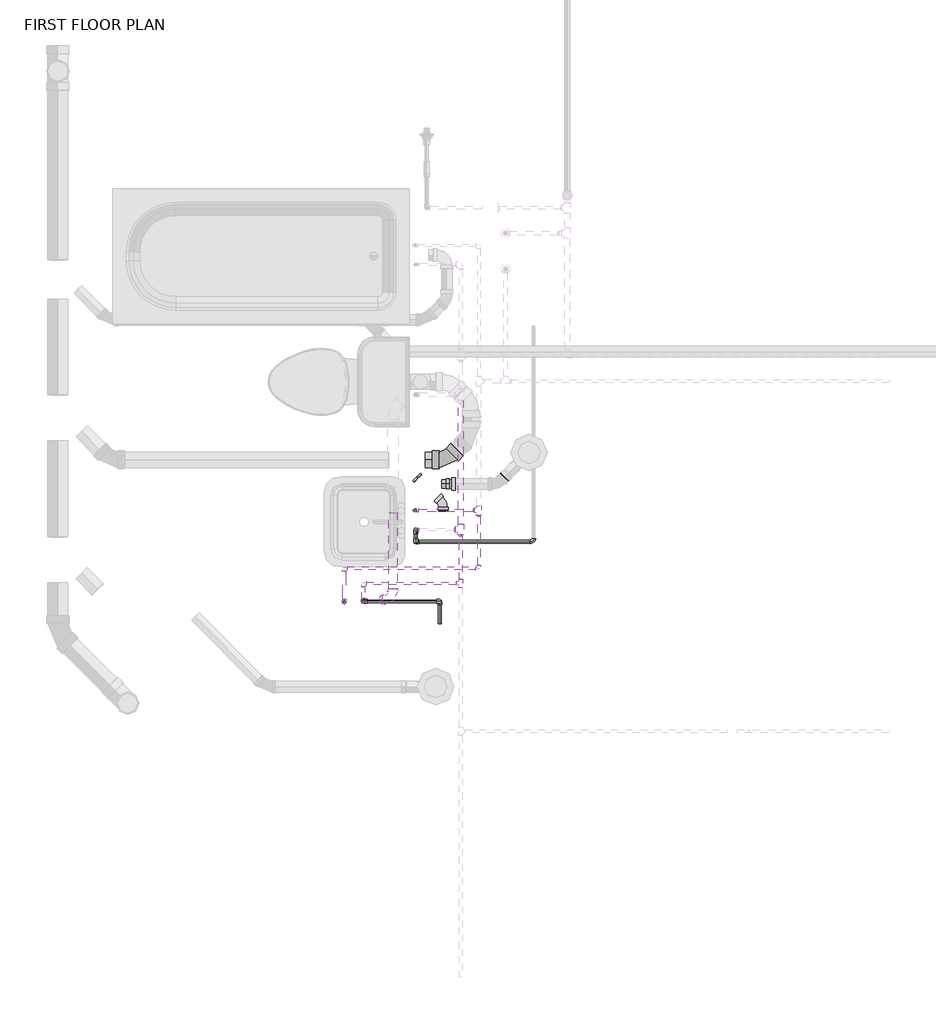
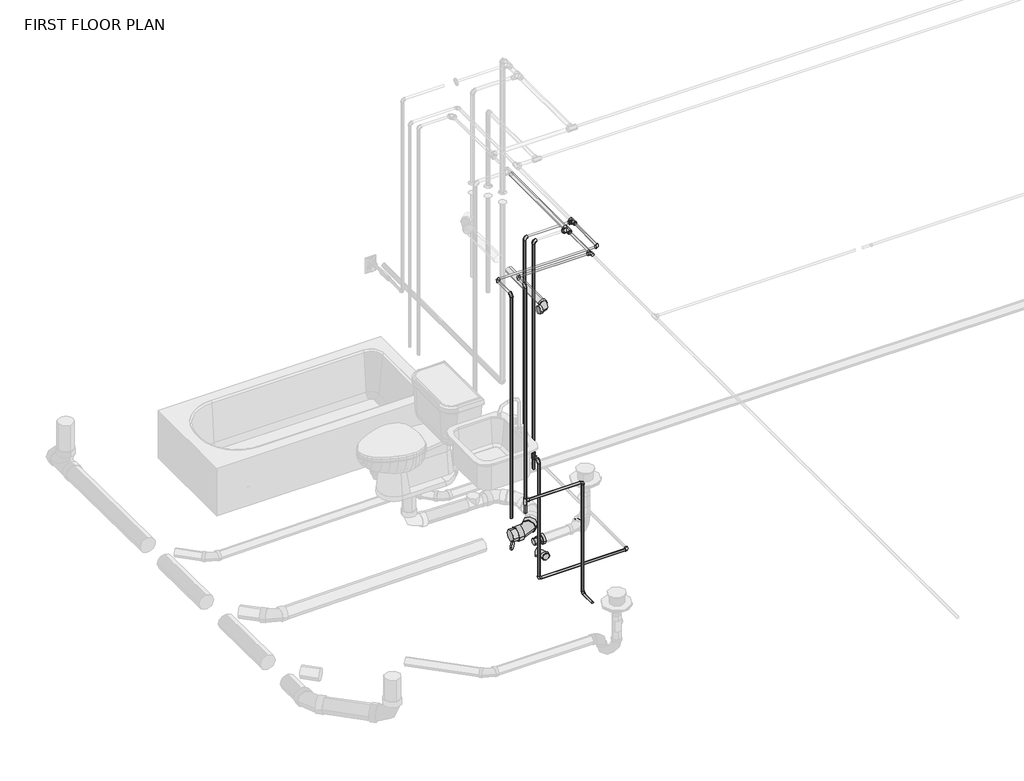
# One storey, part 2 of 5: 27 pipe segments, 25 pipe fittings.
"""IFC4 building model written with IfcOpenShell, lengths in millimetres."""

from ifc_helpers import new_model, si_unit, point, frame, frame_2d, origin, place, context, project, spatial, circle_curve, trimmed, segment, composite_curve, outline, extrude, transform, mapped, element, save
from components import bend_pvc_sch_40_dwv_standard_b1bc43c7, bend_pvc_sch_40_dwv_standard_727fa454, bend_pvc_sch_40_dwv_standard_18acc2f6, pipe_elbow_copper_k_aad62f2d, pipe_elbow_copper_k_fb99da9a, pipe_tee_copper_k_feafe2f1, pipe_tee_copper_k_ee363fbf, pipe_tee_copper_k_1a6ca384, pipe_transition_copper_k_b63fd5dd, pipe_transition_copper_k_859ff352, reducer_pvc_sch_40_dwv_standard_b23fa098

model = new_model("IFC4")

# Units and contexts
model_context = context("Model", 3, world=origin())
ifc_project = project(units=[si_unit("LENGTHUNIT", "METRE", prefix="MILLI")], contexts=[model_context])

# Site, building, storey
site = spatial("IfcSite", under=ifc_project)
building = spatial("IfcBuilding", under=site)
storey = spatial("IfcBuildingStorey", under=building, Name="FIRST FLOOR PLAN", Elevation=0.0)

# Pipe fittings
placement = place(None, origin())
bend_pvc_sch_40_dwv_standard_shape = bend_pvc_sch_40_dwv_standard_b1bc43c7(model_context)
element("IfcPipeFitting", 1, ObjectType="Bend - PVC - Sch 40 - DWV : Standard", at=placement, inside=storey, context=model_context, shape_type="MappedRepresentation", body=[
    mapped(bend_pvc_sch_40_dwv_standard_shape, transform((-7069.3890941, 3977.8910856, -306.1205118), x_axis=(0.999945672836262, 0.0, 0.010423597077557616), y_axis=(-4.489395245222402e-05, 0.9999907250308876, 0.004306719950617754), z_axis=(-0.010423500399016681, -0.004306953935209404, 0.9999363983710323))),
])
bend_pvc_sch_40_dwv_standard_2_shape = bend_pvc_sch_40_dwv_standard_727fa454(model_context)
element("IfcPipeFitting", 2, ObjectType="Bend - PVC - Sch 40 - DWV : Standard", at=placement, inside=storey, context=model_context, shape_type="MappedRepresentation", body=[
    mapped(bend_pvc_sch_40_dwv_standard_2_shape, transform((-7090.6282635, 3734.9328307, -334.0704086), x_axis=(0.0, 0.9999865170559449, -0.005192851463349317), y_axis=(-0.9999863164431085, -2.716557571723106e-05, -0.005231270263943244), z_axis=(-0.0052313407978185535, 0.00519278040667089, 0.9999728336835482))),
])
bend_pvc_sch_40_dwv_standard_3_shape = bend_pvc_sch_40_dwv_standard_18acc2f6(model_context)
element("IfcPipeFitting", 3, ObjectType="Bend - PVC - Sch 40 - DWV : Standard", at=placement, inside=storey, context=model_context, shape_type="MappedRepresentation", body=[
    mapped(bend_pvc_sch_40_dwv_standard_3_shape, transform((-7374.3748732, 3186.6227338, 2055.9460368), x_axis=(0.9999921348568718, 6.212274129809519e-05, -0.003965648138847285), y_axis=(-6.1988674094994e-05, 0.9999999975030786, 3.393003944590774e-05), z_axis=(0.003965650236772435, -3.368394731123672e-05, 0.9999921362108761))),
])
pipe_elbow_copper_k_shape = pipe_elbow_copper_k_aad62f2d(model_context)
element("IfcPipeFitting", 4, ObjectType="Pipe Elbow : Copper- K", at=placement, inside=storey, context=model_context, shape_type="MappedRepresentation", body=[
    mapped(pipe_elbow_copper_k_shape, transform((-7245.3887487, 3583.7331459, 2298.2390728), x_axis=(-1.0, 0.0, 0.0), y_axis=(0.0, 0.0, -1.0), z_axis=(0.0, -1.0, 0.0))),
])
element("IfcPipeFitting", 5, ObjectType="Pipe Elbow : Copper- K", at=placement, inside=storey, context=model_context, shape_type="MappedRepresentation", body=[
    mapped(pipe_elbow_copper_k_shape, transform((-7650.1181278, 3172.2551405, 2263.2789062), x_axis=(0.0, -1.0, 0.0), y_axis=(0.0, 0.0, -1.0), z_axis=(1.0, 0.0, 0.0))),
])
element("IfcPipeFitting", 6, ObjectType="Pipe Elbow : Copper- K", at=placement, inside=storey, context=model_context, shape_type="MappedRepresentation", body=[
    mapped(pipe_elbow_copper_k_shape, transform((-7542.2871171, 3177.0176405, 2298.2390728), x_axis=(0.0, -1.0, 0.0), y_axis=(0.0, 0.0, -1.0), z_axis=(1.0, 0.0, 0.0))),
])
element("IfcPipeFitting", 7, ObjectType="Pipe Elbow : Copper- K", at=placement, inside=storey, context=model_context, shape_type="MappedRepresentation", body=[
    mapped(pipe_elbow_copper_k_shape, transform((-7650.1181278, 3364.3081342, 2263.2789063), x_axis=(-1.0, 0.0, 0.0), y_axis=(0.0, -1.0, 0.0), z_axis=(0.0, 0.0, 1.0))),
])
element("IfcPipeFitting", 8, ObjectType="Pipe Elbow : Copper- K", at=placement, inside=storey, context=model_context, shape_type="MappedRepresentation", body=[
    mapped(pipe_elbow_copper_k_shape, transform((-6888.1181278, 3364.3081342, 2263.2789063), x_axis=(1.0, 0.0, 0.0), y_axis=(0.0, 1.0, 0.0), z_axis=(0.0, 0.0, 1.0))),
])
element("IfcPipeFitting", 9, ObjectType="Pipe Elbow : Copper- K", at=placement, inside=storey, context=model_context, shape_type="MappedRepresentation", body=[
    mapped(pipe_elbow_copper_k_shape, transform((-7250.1512487, 3691.5641566, 2263.2789063), x_axis=(0.0, 0.0, 1.0), y_axis=(1.0, 0.0, 0.0), z_axis=(0.0, 1.0, 0.0))),
])
element("IfcPipeFitting", 10, ObjectType="Pipe Elbow : Copper- K", at=placement, inside=storey, context=model_context, shape_type="MappedRepresentation", body=[
    mapped(pipe_elbow_copper_k_shape, transform((-7542.2871171, 3278.6176405, 2298.2390728), x_axis=(-1.0, 0.0, 0.0), y_axis=(0.0, -1.0, 0.0), z_axis=(0.0, 0.0, 1.0))),
])
element("IfcPipeFitting", 11, ObjectType="Pipe Elbow : Copper- K", at=placement, inside=storey, context=model_context, shape_type="MappedRepresentation", body=[
    mapped(pipe_elbow_copper_k_shape, transform((-7110.4871171, 3177.0176405, 579.3382812), x_axis=(1.0, 0.0, 0.0), y_axis=(0.0, 0.0, -1.0), z_axis=(0.0, 1.0, 0.0))),
])
element("IfcPipeFitting", 12, ObjectType="Pipe Elbow : Copper- K", at=placement, inside=storey, context=model_context, shape_type="MappedRepresentation", body=[
    mapped(pipe_elbow_copper_k_shape, transform((-7110.4871171, 3177.0176405, -304.8), x_axis=(0.0, 0.0, -1.0), y_axis=(0.0, -1.0, 0.0), z_axis=(-1.0, 0.0, 0.0))),
])
element("IfcPipeFitting", 13, ObjectType="Pipe Elbow : Copper- K", at=placement, inside=storey, context=model_context, shape_type="MappedRepresentation", body=[
    mapped(pipe_elbow_copper_k_shape, transform((-7245.3887487, 3515.4706459, 589.9546875), x_axis=(0.0, -1.0, 0.0), y_axis=(0.0, 0.0, -1.0), z_axis=(1.0, 0.0, 0.0))),
])
element("IfcPipeFitting", 14, ObjectType="Pipe Elbow : Copper- K", at=placement, inside=storey, context=model_context, shape_type="MappedRepresentation", body=[
    mapped(pipe_elbow_copper_k_shape, transform((-7245.3887487, 3515.4706459, -346.471875), x_axis=(0.0, 0.0, -1.0), y_axis=(1.0, 0.0, 0.0), z_axis=(0.0, -1.0, 0.0))),
])
pipe_elbow_copper_k_2_shape = pipe_elbow_copper_k_fb99da9a(model_context)
element("IfcPipeFitting", 15, ObjectType="Pipe Elbow : Copper- K", at=placement, inside=storey, context=model_context, shape_type="MappedRepresentation", body=[
    mapped(pipe_elbow_copper_k_2_shape, transform((-6579.1877306, 3515.4706459, -346.471875), x_axis=(1.0, 0.0, 0.0), y_axis=(0.0, 1.0, 0.0), z_axis=(0.0, 0.0, 1.0))),
])
pipe_tee_copper_k_shape = pipe_tee_copper_k_feafe2f1(model_context)
element("IfcPipeFitting", 16, ObjectType="Pipe Tee : Copper- K", at=placement, inside=storey, context=model_context, shape_type="MappedRepresentation", body=[
    mapped(pipe_tee_copper_k_shape, transform((-6991.3887487, 3583.7331459, 2298.2390728), x_axis=(0.0, 1.0, 0.0), y_axis=(1.0, 0.0, 0.0), z_axis=(0.0, 0.0, -1.0))),
])
pipe_tee_copper_k_2_shape = pipe_tee_copper_k_ee363fbf(model_context)
element("IfcPipeFitting", 17, ObjectType="Pipe Tee : Copper- K", at=placement, inside=storey, context=model_context, shape_type="MappedRepresentation", body=[
    mapped(pipe_tee_copper_k_2_shape, transform((-6888.1181278, 3691.5641566, 2263.2789063), x_axis=(0.0, -1.0, 0.0), y_axis=(1.0, 0.0, 0.0), z_axis=(0.0, 0.0, 1.0))),
])
pipe_tee_copper_k_3_shape = pipe_tee_copper_k_1a6ca384(model_context)
element("IfcPipeFitting", 18, ObjectType="Pipe Tee : Copper- K", at=placement, inside=storey, context=model_context, shape_type="MappedRepresentation", body=[
    mapped(pipe_tee_copper_k_3_shape, transform((-6991.3887487, 3278.6176405, 2298.2390728), x_axis=(0.0, 1.0, 0.0), y_axis=(1.0, 0.0, 0.0), z_axis=(0.0, 0.0, -1.0))),
])
element("IfcPipeFitting", 19, ObjectType="Pipe Tee : Copper- K", at=placement, inside=storey, context=model_context, shape_type="MappedRepresentation", body=[
    mapped(pipe_tee_copper_k_3_shape, transform((-7542.2871171, 3177.0176405, 579.3382812), x_axis=(0.0, 0.0, 1.0), y_axis=(-1.0, 0.0, 0.0), z_axis=(0.0, -1.0, 0.0))),
])
element("IfcPipeFitting", 20, ObjectType="Pipe Tee : Copper- K", at=placement, inside=storey, context=model_context, shape_type="MappedRepresentation", body=[
    mapped(pipe_tee_copper_k_3_shape, transform((-7245.3887487, 3583.7331459, 589.9546875), x_axis=(0.0, 0.0, 1.0), y_axis=(0.0, 1.0, 0.0), z_axis=(-1.0, 0.0, 0.0))),
])
pipe_transition_copper_k_shape = pipe_transition_copper_k_b63fd5dd(model_context)
element("IfcPipeFitting", 21, ObjectType="Pipe Transition : Copper- K", at=placement, inside=storey, context=model_context, shape_type="MappedRepresentation", body=[
    mapped(pipe_transition_copper_k_shape, transform((-7021.5512487, 3583.7331459, 2298.2390728), x_axis=(-1.0, 0.0, 0.0), y_axis=(0.0, -1.0, 0.0), z_axis=(0.0, 0.0, 1.0))),
])
element("IfcPipeFitting", 22, ObjectType="Pipe Transition : Copper- K", at=placement, inside=storey, context=model_context, shape_type="MappedRepresentation", body=[
    mapped(pipe_transition_copper_k_shape, transform((-6991.3887487, 3553.5706459, 2298.2390728), x_axis=(0.0, -1.0, 0.0), y_axis=(1.0, 0.0, 0.0), z_axis=(0.0, 0.0, 1.0))),
])
pipe_transition_copper_k_2_shape = pipe_transition_copper_k_859ff352(model_context)
element("IfcPipeFitting", 23, ObjectType="Pipe Transition : Copper- K", at=placement, inside=storey, context=model_context, shape_type="MappedRepresentation", body=[
    mapped(pipe_transition_copper_k_2_shape, transform((-6915.1056278, 3691.5641566, 2263.2789063), x_axis=(-1.0, 0.0, 0.0), y_axis=(0.0, -1.0, 0.0), z_axis=(0.0, 0.0, 1.0))),
])
element("IfcPipeFitting", 24, ObjectType="Pipe Transition : Copper- K", at=placement, inside=storey, context=model_context, shape_type="MappedRepresentation", body=[
    mapped(pipe_transition_copper_k_2_shape, transform((-6888.1181278, 3664.5766566, 2263.2789063), x_axis=(0.0, -1.0, 0.0), y_axis=(1.0, 0.0, 0.0), z_axis=(0.0, 0.0, 1.0))),
])
reducer_pvc_sch_40_dwv_standard_shape = reducer_pvc_sch_40_dwv_standard_b23fa098(model_context)
element("IfcPipeFitting", 25, ObjectType="Reducer - PVC - Sch 40 - DWV : Standard", at=placement, inside=storey, context=model_context, shape_type="MappedRepresentation", body=[
    mapped(reducer_pvc_sch_40_dwv_standard_shape, transform((-7022.7034286, 3841.4516114, -304.8205489), x_axis=(-0.9998117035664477, 0.0, -0.019405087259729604), y_axis=(0.0, -1.0, 0.0), z_axis=(-0.019405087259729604, 0.0, 0.9998117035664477))),
])

# Pipe segments
element("IfcPipeSegment", 26, ObjectType="Copper", at=placement, inside=storey, context=model_context, shape_type="SweptSolid", body=[
    extrude(outline(composite_curve([segment(trimmed(circle_curve(frame_2d((3691.5641566, 2263.2789063)), 7.9375), [point((3683.6266566, 2263.2789063))], [point((3691.5641566, 2271.2164063))], False, "CARTESIAN"), True, "CONTINUOUS"), segment(trimmed(circle_curve(frame_2d((3691.5641566, 2263.2789063)), 7.9375), [point((3691.5641566, 2271.2164063))], [point((3699.5016566, 2263.2789063))], False, "CARTESIAN"), True, "CONTINUOUS"), segment(trimmed(circle_curve(frame_2d((3691.5641566, 2263.2789063)), 7.9375), [point((3699.5016566, 2263.2789063))], [point((3691.5641566, 2255.3414063))], False, "CARTESIAN"), True, "CONTINUOUS"), segment(trimmed(circle_curve(frame_2d((3691.5641566, 2263.2789063)), 7.9375), [point((3691.5641566, 2255.3414063))], [point((3683.6266566, 2263.2789063))], False, "CARTESIAN"), True, "CONTINUOUS")], self_intersect=False)), frame((-7232.6887487, 0.0, 0.0), z_axis=(1.0, 0.0, 0.0), x_axis=(0.0, 1.0, 0.0)), (0.0, 0.0, 1.0), 312.0268709),
])
element("IfcPipeSegment", 27, ObjectType="Copper", at=placement, inside=storey, context=model_context, shape_type="SweptSolid", body=[
    extrude(outline(composite_curve([segment(trimmed(circle_curve(frame_2d((-7250.1512487, 3691.5641566)), 7.9375), [point((-7242.2137487, 3691.5641566))], [point((-7250.1512487, 3683.6266566))], False, "CARTESIAN"), True, "CONTINUOUS"), segment(trimmed(circle_curve(frame_2d((-7250.1512487, 3691.5641566)), 7.9375), [point((-7250.1512487, 3683.6266566))], [point((-7258.0887487, 3691.5641566))], False, "CARTESIAN"), True, "CONTINUOUS"), segment(trimmed(circle_curve(frame_2d((-7250.1512487, 3691.5641566)), 7.9375), [point((-7258.0887487, 3691.5641566))], [point((-7250.1512487, 3699.5016566))], False, "CARTESIAN"), True, "CONTINUOUS"), segment(trimmed(circle_curve(frame_2d((-7250.1512487, 3691.5641566)), 7.9375), [point((-7250.1512487, 3699.5016566))], [point((-7242.2137487, 3691.5641566))], False, "CARTESIAN"), True, "CONTINUOUS")], self_intersect=False)), frame((0.0, 0.0, 485.2789063), z_axis=(0.0, 0.0, 1.0), x_axis=(1.0, 0.0, 0.0)), (0.0, 0.0, 1.0), 1760.5375),
])
element("IfcPipeSegment", 28, ObjectType="Copper", at=placement, inside=storey, context=model_context, shape_type="SweptSolid", body=[
    extrude(outline(composite_curve([segment(trimmed(circle_curve(frame_2d((2298.2390728, -6991.3887487)), 14.2875), [point((2298.2390728, -6977.1012487))], [point((2312.5265728, -6991.3887487))], False, "CARTESIAN"), True, "CONTINUOUS"), segment(trimmed(circle_curve(frame_2d((2298.2390728, -6991.3887487)), 14.2875), [point((2312.5265728, -6991.3887487))], [point((2298.2390728, -7005.6762487))], False, "CARTESIAN"), True, "CONTINUOUS"), segment(trimmed(circle_curve(frame_2d((2298.2390728, -6991.3887487)), 14.2875), [point((2298.2390728, -7005.6762487))], [point((2283.9515728, -6991.3887487))], False, "CARTESIAN"), True, "CONTINUOUS"), segment(trimmed(circle_curve(frame_2d((2298.2390728, -6991.3887487)), 14.2875), [point((2283.9515728, -6991.3887487))], [point((2298.2390728, -6977.1012487))], False, "CARTESIAN"), True, "CONTINUOUS")], self_intersect=False)), frame((0.0, 3613.8956459, 0.0), z_axis=(0.0, 1.0, 0.0), x_axis=(0.0, 0.0, 1.0)), (0.0, 0.0, 1.0), 701.675),
])
element("IfcPipeSegment", 29, ObjectType="Copper", at=placement, inside=storey, context=model_context, shape_type="SweptSolid", body=[
    extrude(outline(composite_curve([segment(trimmed(circle_curve(frame_2d((2298.2390728, -7542.2871171)), 7.9375), [point((2298.2390728, -7534.3496171))], [point((2306.1765728, -7542.2871171))], False, "CARTESIAN"), True, "CONTINUOUS"), segment(trimmed(circle_curve(frame_2d((2298.2390728, -7542.2871171)), 7.9375), [point((2306.1765728, -7542.2871171))], [point((2298.2390728, -7550.2246171))], False, "CARTESIAN"), True, "CONTINUOUS"), segment(trimmed(circle_curve(frame_2d((2298.2390728, -7542.2871171)), 7.9375), [point((2298.2390728, -7550.2246171))], [point((2290.3015728, -7542.2871171))], False, "CARTESIAN"), True, "CONTINUOUS"), segment(trimmed(circle_curve(frame_2d((2298.2390728, -7542.2871171)), 7.9375), [point((2290.3015728, -7542.2871171))], [point((2298.2390728, -7534.3496171))], False, "CARTESIAN"), True, "CONTINUOUS")], self_intersect=False)), frame((0.0, 3194.4801405, 0.0), z_axis=(0.0, 1.0, 0.0), x_axis=(0.0, 0.0, 1.0)), (0.0, 0.0, 1.0), 66.675),
])
element("IfcPipeSegment", 30, ObjectType="Copper", at=placement, inside=storey, context=model_context, shape_type="SweptSolid", body=[
    extrude(outline(composite_curve([segment(trimmed(circle_curve(frame_2d((2263.2789063, -7650.1181278)), 7.9375), [point((2263.2789063, -7642.1806278))], [point((2271.2164063, -7650.1181278))], False, "CARTESIAN"), True, "CONTINUOUS"), segment(trimmed(circle_curve(frame_2d((2263.2789063, -7650.1181278)), 7.9375), [point((2271.2164063, -7650.1181278))], [point((2263.2789063, -7658.0556278))], False, "CARTESIAN"), True, "CONTINUOUS"), segment(trimmed(circle_curve(frame_2d((2263.2789063, -7650.1181278)), 7.9375), [point((2263.2789063, -7658.0556278))], [point((2255.3414063, -7650.1181278))], False, "CARTESIAN"), True, "CONTINUOUS"), segment(trimmed(circle_curve(frame_2d((2263.2789063, -7650.1181278)), 7.9375), [point((2255.3414063, -7650.1181278))], [point((2263.2789063, -7642.1806278))], False, "CARTESIAN"), True, "CONTINUOUS")], self_intersect=False)), frame((0.0, 3189.7176405, 0.0), z_axis=(0.0, 1.0, 0.0), x_axis=(0.0, 0.0, 1.0)), (0.0, 0.0, 1.0), 157.1279937),
])
element("IfcPipeSegment", 31, ObjectType="Copper", at=placement, inside=storey, context=model_context, shape_type="SweptSolid", body=[
    extrude(outline(composite_curve([segment(trimmed(circle_curve(frame_2d((-7650.1181278, 3172.2551405)), 7.9375), [point((-7642.1806278, 3172.2551405))], [point((-7650.1181278, 3164.3176405))], False, "CARTESIAN"), True, "CONTINUOUS"), segment(trimmed(circle_curve(frame_2d((-7650.1181278, 3172.2551405)), 7.9375), [point((-7650.1181278, 3164.3176405))], [point((-7658.0556278, 3172.2551405))], False, "CARTESIAN"), True, "CONTINUOUS"), segment(trimmed(circle_curve(frame_2d((-7650.1181278, 3172.2551405)), 7.9375), [point((-7658.0556278, 3172.2551405))], [point((-7650.1181278, 3180.1926405))], False, "CARTESIAN"), True, "CONTINUOUS"), segment(trimmed(circle_curve(frame_2d((-7650.1181278, 3172.2551405)), 7.9375), [point((-7650.1181278, 3180.1926405))], [point((-7642.1806278, 3172.2551405))], False, "CARTESIAN"), True, "CONTINUOUS")], self_intersect=False)), frame((0.0, 0.0, 485.2789063), z_axis=(0.0, 0.0, 1.0), x_axis=(1.0, 0.0, 0.0)), (0.0, 0.0, 1.0), 1760.5375),
])
element("IfcPipeSegment", 32, ObjectType="Copper", at=placement, inside=storey, context=model_context, shape_type="SweptSolid", body=[
    extrude(outline(composite_curve([segment(trimmed(circle_curve(frame_2d((3278.6176405, 2298.2390728)), 7.9375), [point((3270.6801405, 2298.2390728))], [point((3278.6176405, 2306.1765728))], False, "CARTESIAN"), True, "CONTINUOUS"), segment(trimmed(circle_curve(frame_2d((3278.6176405, 2298.2390728)), 7.9375), [point((3278.6176405, 2306.1765728))], [point((3286.5551405, 2298.2390728))], False, "CARTESIAN"), True, "CONTINUOUS"), segment(trimmed(circle_curve(frame_2d((3278.6176405, 2298.2390728)), 7.9375), [point((3286.5551405, 2298.2390728))], [point((3278.6176405, 2290.3015728))], False, "CARTESIAN"), True, "CONTINUOUS"), segment(trimmed(circle_curve(frame_2d((3278.6176405, 2298.2390728)), 7.9375), [point((3278.6176405, 2290.3015728))], [point((3270.6801405, 2298.2390728))], False, "CARTESIAN"), True, "CONTINUOUS")], self_intersect=False)), frame((-7524.8246171, 0.0, 0.0), z_axis=(1.0, 0.0, 0.0), x_axis=(0.0, 1.0, 0.0)), (0.0, 0.0, 1.0), 509.6233684),
])
element("IfcPipeSegment", 33, ObjectType="Copper", at=placement, inside=storey, context=model_context, shape_type="SweptSolid", body=[
    extrude(outline(composite_curve([segment(trimmed(circle_curve(frame_2d((3364.3081342, 2263.2789063)), 7.9375), [point((3356.3706342, 2263.2789063))], [point((3364.3081342, 2271.2164063))], False, "CARTESIAN"), True, "CONTINUOUS"), segment(trimmed(circle_curve(frame_2d((3364.3081342, 2263.2789063)), 7.9375), [point((3364.3081342, 2271.2164063))], [point((3372.2456342, 2263.2789063))], False, "CARTESIAN"), True, "CONTINUOUS"), segment(trimmed(circle_curve(frame_2d((3364.3081342, 2263.2789063)), 7.9375), [point((3372.2456342, 2263.2789063))], [point((3364.3081342, 2255.3414063))], False, "CARTESIAN"), True, "CONTINUOUS"), segment(trimmed(circle_curve(frame_2d((3364.3081342, 2263.2789063)), 7.9375), [point((3364.3081342, 2255.3414063))], [point((3356.3706342, 2263.2789063))], False, "CARTESIAN"), True, "CONTINUOUS")], self_intersect=False)), frame((-7632.6556278, 0.0, 0.0), z_axis=(1.0, 0.0, 0.0), x_axis=(0.0, 1.0, 0.0)), (0.0, 0.0, 1.0), 727.075),
])
element("IfcPipeSegment", 34, ObjectType="Copper", at=placement, inside=storey, context=model_context, shape_type="SweptSolid", body=[
    extrude(outline(composite_curve([segment(trimmed(circle_curve(frame_2d((2263.2789062, -6888.1181278)), 7.9375), [point((2263.2789062, -6880.1806278))], [point((2271.2164062, -6888.1181278))], False, "CARTESIAN"), True, "CONTINUOUS"), segment(trimmed(circle_curve(frame_2d((2263.2789062, -6888.1181278)), 7.9375), [point((2271.2164062, -6888.1181278))], [point((2263.2789062, -6896.0556278))], False, "CARTESIAN"), True, "CONTINUOUS"), segment(trimmed(circle_curve(frame_2d((2263.2789062, -6888.1181278)), 7.9375), [point((2263.2789062, -6896.0556278))], [point((2255.3414062, -6888.1181278))], False, "CARTESIAN"), True, "CONTINUOUS"), segment(trimmed(circle_curve(frame_2d((2263.2789062, -6888.1181278)), 7.9375), [point((2255.3414062, -6888.1181278))], [point((2263.2789062, -6880.1806278))], False, "CARTESIAN"), True, "CONTINUOUS")], self_intersect=False)), frame((0.0, 3381.7706342, 0.0), z_axis=(0.0, 1.0, 0.0), x_axis=(0.0, 0.0, 1.0)), (0.0, 0.0, 1.0), 277.2497723),
])
element("IfcPipeSegment", 35, ObjectType="Copper", at=placement, inside=storey, context=model_context, shape_type="SweptSolid", body=[
    extrude(outline(composite_curve([segment(trimmed(circle_curve(frame_2d((2298.2390728, -6991.3887487)), 7.9375), [point((2298.2390728, -6999.3262487))], [point((2290.3015728, -6991.3887487))], False, "CARTESIAN"), True, "CONTINUOUS"), segment(trimmed(circle_curve(frame_2d((2298.2390728, -6991.3887487)), 7.9375), [point((2290.3015728, -6991.3887487))], [point((2298.2390728, -6983.4512487))], False, "CARTESIAN"), True, "CONTINUOUS"), segment(trimmed(circle_curve(frame_2d((2298.2390728, -6991.3887487)), 7.9375), [point((2298.2390728, -6983.4512487))], [point((2306.1765728, -6991.3887487))], False, "CARTESIAN"), True, "CONTINUOUS"), segment(trimmed(circle_curve(frame_2d((2298.2390728, -6991.3887487)), 7.9375), [point((2306.1765728, -6991.3887487))], [point((2298.2390728, -6999.3262487))], False, "CARTESIAN"), True, "CONTINUOUS")], self_intersect=False)), frame((0.0, 3302.4301405, 0.0), z_axis=(0.0, 1.0, 0.0), x_axis=(0.0, 0.0, 1.0)), (0.0, 0.0, 1.0), 243.9967554),
])
element("IfcPipeSegment", 36, ObjectType="Copper", at=placement, inside=storey, context=model_context, shape_type="SweptSolid", body=[
    extrude(outline(composite_curve([segment(trimmed(circle_curve(frame_2d((3177.0176405, 579.3382812)), 7.9375), [point((3169.0801405, 579.3382812))], [point((3177.0176405, 587.2757812))], False, "CARTESIAN"), True, "CONTINUOUS"), segment(trimmed(circle_curve(frame_2d((3177.0176405, 579.3382812)), 7.9375), [point((3177.0176405, 587.2757812))], [point((3184.9551405, 579.3382812))], False, "CARTESIAN"), True, "CONTINUOUS"), segment(trimmed(circle_curve(frame_2d((3177.0176405, 579.3382812)), 7.9375), [point((3184.9551405, 579.3382812))], [point((3177.0176405, 571.4007812))], False, "CARTESIAN"), True, "CONTINUOUS"), segment(trimmed(circle_curve(frame_2d((3177.0176405, 579.3382812)), 7.9375), [point((3177.0176405, 571.4007812))], [point((3169.0801405, 579.3382812))], False, "CARTESIAN"), True, "CONTINUOUS")], self_intersect=False)), frame((-7518.4746171, 0.0, 0.0), z_axis=(1.0, 0.0, 0.0), x_axis=(0.0, 1.0, 0.0)), (0.0, 0.0, 1.0), 390.525),
])
element("IfcPipeSegment", 37, ObjectType="Copper", at=placement, inside=storey, context=model_context, shape_type="SweptSolid", body=[
    extrude(outline(composite_curve([segment(trimmed(circle_curve(frame_2d((-7542.2871171, 3177.0176405)), 7.9375), [point((-7534.3496171, 3177.0176405))], [point((-7542.2871171, 3169.0801405))], False, "CARTESIAN"), True, "CONTINUOUS"), segment(trimmed(circle_curve(frame_2d((-7542.2871171, 3177.0176405)), 7.9375), [point((-7542.2871171, 3169.0801405))], [point((-7550.2246171, 3177.0176405))], False, "CARTESIAN"), True, "CONTINUOUS"), segment(trimmed(circle_curve(frame_2d((-7542.2871171, 3177.0176405)), 7.9375), [point((-7550.2246171, 3177.0176405))], [point((-7542.2871171, 3184.9551405))], False, "CARTESIAN"), True, "CONTINUOUS"), segment(trimmed(circle_curve(frame_2d((-7542.2871171, 3177.0176405)), 7.9375), [point((-7542.2871171, 3184.9551405))], [point((-7534.3496171, 3177.0176405))], False, "CARTESIAN"), True, "CONTINUOUS")], self_intersect=False)), frame((0.0, 0.0, 485.2789063), z_axis=(0.0, 0.0, 1.0), x_axis=(1.0, 0.0, 0.0)), (0.0, 0.0, 1.0), 70.246875),
])
element("IfcPipeSegment", 38, ObjectType="Copper", at=placement, inside=storey, context=model_context, shape_type="SweptSolid", body=[
    extrude(outline(composite_curve([segment(trimmed(circle_curve(frame_2d((-7542.2871171, 3177.0176405)), 7.9375), [point((-7534.3496171, 3177.0176405))], [point((-7542.2871171, 3169.0801405))], False, "CARTESIAN"), True, "CONTINUOUS"), segment(trimmed(circle_curve(frame_2d((-7542.2871171, 3177.0176405)), 7.9375), [point((-7542.2871171, 3169.0801405))], [point((-7550.2246171, 3177.0176405))], False, "CARTESIAN"), True, "CONTINUOUS"), segment(trimmed(circle_curve(frame_2d((-7542.2871171, 3177.0176405)), 7.9375), [point((-7550.2246171, 3177.0176405))], [point((-7542.2871171, 3184.9551405))], False, "CARTESIAN"), True, "CONTINUOUS"), segment(trimmed(circle_curve(frame_2d((-7542.2871171, 3177.0176405)), 7.9375), [point((-7542.2871171, 3184.9551405))], [point((-7534.3496171, 3177.0176405))], False, "CARTESIAN"), True, "CONTINUOUS")], self_intersect=False)), frame((0.0, 0.0, 603.1507813), z_axis=(0.0, 0.0, 1.0), x_axis=(1.0, 0.0, 0.0)), (0.0, 0.0, 1.0), 1677.6257916),
])
element("IfcPipeSegment", 39, ObjectType="Copper", at=placement, inside=storey, context=model_context, shape_type="SweptSolid", body=[
    extrude(outline(composite_curve([segment(trimmed(circle_curve(frame_2d((-304.8, -7110.4871171)), 7.9375), [point((-304.8, -7118.4246171))], [point((-312.7375, -7110.4871171))], False, "CARTESIAN"), True, "CONTINUOUS"), segment(trimmed(circle_curve(frame_2d((-304.8, -7110.4871171)), 7.9375), [point((-312.7375, -7110.4871171))], [point((-304.8, -7102.5496171))], False, "CARTESIAN"), True, "CONTINUOUS"), segment(trimmed(circle_curve(frame_2d((-304.8, -7110.4871171)), 7.9375), [point((-304.8, -7102.5496171))], [point((-296.8625, -7110.4871171))], False, "CARTESIAN"), True, "CONTINUOUS"), segment(trimmed(circle_curve(frame_2d((-304.8, -7110.4871171)), 7.9375), [point((-296.8625, -7110.4871171))], [point((-304.8, -7118.4246171))], False, "CARTESIAN"), True, "CONTINUOUS")], self_intersect=False)), frame((0.0, 3050.0176405, 0.0), z_axis=(0.0, 1.0, 0.0), x_axis=(0.0, 0.0, 1.0)), (0.0, 0.0, 1.0), 109.5375),
])
element("IfcPipeSegment", 40, ObjectType="Copper", at=placement, inside=storey, context=model_context, shape_type="SweptSolid", body=[
    extrude(outline(composite_curve([segment(trimmed(circle_curve(frame_2d((-7110.4871171, 3177.0176405)), 7.9375), [point((-7102.5496171, 3177.0176405))], [point((-7110.4871171, 3169.0801405))], False, "CARTESIAN"), True, "CONTINUOUS"), segment(trimmed(circle_curve(frame_2d((-7110.4871171, 3177.0176405)), 7.9375), [point((-7110.4871171, 3169.0801405))], [point((-7118.4246171, 3177.0176405))], False, "CARTESIAN"), True, "CONTINUOUS"), segment(trimmed(circle_curve(frame_2d((-7110.4871171, 3177.0176405)), 7.9375), [point((-7118.4246171, 3177.0176405))], [point((-7110.4871171, 3184.9551405))], False, "CARTESIAN"), True, "CONTINUOUS"), segment(trimmed(circle_curve(frame_2d((-7110.4871171, 3177.0176405)), 7.9375), [point((-7110.4871171, 3184.9551405))], [point((-7102.5496171, 3177.0176405))], False, "CARTESIAN"), True, "CONTINUOUS")], self_intersect=False)), frame((0.0, 0.0, -287.3375), z_axis=(0.0, 0.0, 1.0), x_axis=(1.0, 0.0, 0.0)), (0.0, 0.0, 1.0), 849.2132813),
])
element("IfcPipeSegment", 41, ObjectType="Copper", at=placement, inside=storey, context=model_context, shape_type="SweptSolid", body=[
    extrude(outline(composite_curve([segment(trimmed(circle_curve(frame_2d((589.9546875, -7245.3887487)), 7.9375), [point((589.9546875, -7253.3262487))], [point((582.0171875, -7245.3887487))], False, "CARTESIAN"), True, "CONTINUOUS"), segment(trimmed(circle_curve(frame_2d((589.9546875, -7245.3887487)), 7.9375), [point((582.0171875, -7245.3887487))], [point((589.9546875, -7237.4512487))], False, "CARTESIAN"), True, "CONTINUOUS"), segment(trimmed(circle_curve(frame_2d((589.9546875, -7245.3887487)), 7.9375), [point((589.9546875, -7237.4512487))], [point((597.8921875, -7245.3887487))], False, "CARTESIAN"), True, "CONTINUOUS"), segment(trimmed(circle_curve(frame_2d((589.9546875, -7245.3887487)), 7.9375), [point((597.8921875, -7245.3887487))], [point((589.9546875, -7253.3262487))], False, "CARTESIAN"), True, "CONTINUOUS")], self_intersect=False)), frame((0.0, 3532.9331459, 0.0), z_axis=(0.0, 1.0, 0.0), x_axis=(0.0, 0.0, 1.0)), (0.0, 0.0, 1.0), 26.9875),
])
element("IfcPipeSegment", 42, ObjectType="Copper", at=placement, inside=storey, context=model_context, shape_type="SweptSolid", body=[
    extrude(outline(composite_curve([segment(trimmed(circle_curve(frame_2d((-7245.3887487, 3583.7331459)), 7.9375), [point((-7237.4512487, 3583.7331459))], [point((-7245.3887487, 3575.7956459))], False, "CARTESIAN"), True, "CONTINUOUS"), segment(trimmed(circle_curve(frame_2d((-7245.3887487, 3583.7331459)), 7.9375), [point((-7245.3887487, 3575.7956459))], [point((-7253.3262487, 3583.7331459))], False, "CARTESIAN"), True, "CONTINUOUS"), segment(trimmed(circle_curve(frame_2d((-7245.3887487, 3583.7331459)), 7.9375), [point((-7253.3262487, 3583.7331459))], [point((-7245.3887487, 3591.6706459))], False, "CARTESIAN"), True, "CONTINUOUS"), segment(trimmed(circle_curve(frame_2d((-7245.3887487, 3583.7331459)), 7.9375), [point((-7245.3887487, 3591.6706459))], [point((-7237.4512487, 3583.7331459))], False, "CARTESIAN"), True, "CONTINUOUS")], self_intersect=False)), frame((0.0, 0.0, 485.2789063), z_axis=(0.0, 0.0, 1.0), x_axis=(1.0, 0.0, 0.0)), (0.0, 0.0, 1.0), 80.8632813),
])
element("IfcPipeSegment", 43, ObjectType="Copper", at=placement, inside=storey, context=model_context, shape_type="SweptSolid", body=[
    extrude(outline(composite_curve([segment(trimmed(circle_curve(frame_2d((-7245.3887487, 3583.7331459)), 7.9375), [point((-7237.4512487, 3583.7331459))], [point((-7245.3887487, 3575.7956459))], False, "CARTESIAN"), True, "CONTINUOUS"), segment(trimmed(circle_curve(frame_2d((-7245.3887487, 3583.7331459)), 7.9375), [point((-7245.3887487, 3575.7956459))], [point((-7253.3262487, 3583.7331459))], False, "CARTESIAN"), True, "CONTINUOUS"), segment(trimmed(circle_curve(frame_2d((-7245.3887487, 3583.7331459)), 7.9375), [point((-7253.3262487, 3583.7331459))], [point((-7245.3887487, 3591.6706459))], False, "CARTESIAN"), True, "CONTINUOUS"), segment(trimmed(circle_curve(frame_2d((-7245.3887487, 3583.7331459)), 7.9375), [point((-7245.3887487, 3591.6706459))], [point((-7237.4512487, 3583.7331459))], False, "CARTESIAN"), True, "CONTINUOUS")], self_intersect=False)), frame((0.0, 0.0, 613.7671875), z_axis=(0.0, 0.0, 1.0), x_axis=(1.0, 0.0, 0.0)), (0.0, 0.0, 1.0), 1667.0093853),
])
element("IfcPipeSegment", 44, ObjectType="Copper", at=placement, inside=storey, context=model_context, shape_type="SweptSolid", body=[
    extrude(outline(composite_curve([segment(trimmed(circle_curve(frame_2d((3515.4706459, -346.471875)), 7.9375), [point((3523.4081459, -346.471875))], [point((3515.4706459, -354.409375))], False, "CARTESIAN"), True, "CONTINUOUS"), segment(trimmed(circle_curve(frame_2d((3515.4706459, -346.471875)), 7.9375), [point((3515.4706459, -354.409375))], [point((3507.5331459, -346.471875))], False, "CARTESIAN"), True, "CONTINUOUS"), segment(trimmed(circle_curve(frame_2d((3515.4706459, -346.471875)), 7.9375), [point((3507.5331459, -346.471875))], [point((3515.4706459, -338.534375))], False, "CARTESIAN"), True, "CONTINUOUS"), segment(trimmed(circle_curve(frame_2d((3515.4706459, -346.471875)), 7.9375), [point((3515.4706459, -338.534375))], [point((3523.4081459, -346.471875))], False, "CARTESIAN"), True, "CONTINUOUS")], self_intersect=False)), frame((-7227.9262487, 0.0, 0.0), z_axis=(1.0, 0.0, 0.0), x_axis=(0.0, 1.0, 0.0)), (0.0, 0.0, 1.0), 631.1898849),
])
element("IfcPipeSegment", 45, ObjectType="Copper", at=placement, inside=storey, context=model_context, shape_type="SweptSolid", body=[
    extrude(outline(composite_curve([segment(trimmed(circle_curve(frame_2d((-7245.3887487, 3515.4706459)), 7.9375), [point((-7237.4512487, 3515.4706459))], [point((-7245.3887487, 3507.5331459))], False, "CARTESIAN"), True, "CONTINUOUS"), segment(trimmed(circle_curve(frame_2d((-7245.3887487, 3515.4706459)), 7.9375), [point((-7245.3887487, 3507.5331459))], [point((-7253.3262487, 3515.4706459))], False, "CARTESIAN"), True, "CONTINUOUS"), segment(trimmed(circle_curve(frame_2d((-7245.3887487, 3515.4706459)), 7.9375), [point((-7253.3262487, 3515.4706459))], [point((-7245.3887487, 3523.4081459))], False, "CARTESIAN"), True, "CONTINUOUS"), segment(trimmed(circle_curve(frame_2d((-7245.3887487, 3515.4706459)), 7.9375), [point((-7245.3887487, 3523.4081459))], [point((-7237.4512487, 3515.4706459))], False, "CARTESIAN"), True, "CONTINUOUS")], self_intersect=False)), frame((0.0, 0.0, -329.009375), z_axis=(0.0, 0.0, 1.0), x_axis=(1.0, 0.0, 0.0)), (0.0, 0.0, 1.0), 901.5015625),
])
element("IfcPipeSegment", 46, ObjectType="PVC - SAN/STORM", at=placement, inside=storey, context=model_context, shape_type="SweptSolid", body=[
    extrude(outline(composite_curve([segment(trimmed(circle_curve(frame_2d((0.0, -24.1300001)), 24.13), [point((24.13, -24.1300001))], [point((0.0, -48.26))], False, "CARTESIAN"), True, "CONTINUOUS"), segment(trimmed(circle_curve(frame_2d((0.0, -24.1300001)), 24.13), [point((0.0, -48.26))], [point((-24.13, -24.1300001))], False, "CARTESIAN"), True, "CONTINUOUS"), segment(trimmed(circle_curve(frame_2d((0.0, -24.1300001)), 24.13), [point((-24.13, -24.1300001))], [point((0.0, 0.0))], False, "CARTESIAN"), True, "CONTINUOUS"), segment(trimmed(circle_curve(frame_2d((0.0, -24.1300001)), 24.13), [point((0.0, 0.0))], [point((24.13, -24.1300001))], False, "CARTESIAN"), True, "CONTINUOUS")], self_intersect=False)), frame((-7090.6282635, 3692.318002, -309.7190344), z_axis=(0.0, -0.9999528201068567, 0.009713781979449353), x_axis=(1.0, 0.0, 0.0)), (0.0, 0.0, 1.0), 3.6467907),
])
element("IfcPipeSegment", 47, ObjectType="PVC - SAN/STORM", at=placement, inside=storey, context=model_context, shape_type="SweptSolid", body=[
    extrude(outline(composite_curve([segment(trimmed(circle_curve(frame_2d((0.0, -24.13)), 24.13), [point((2.490979, -0.1289183))], [point((24.0010817, -26.620979))], False, "CARTESIAN"), True, "CONTINUOUS"), segment(trimmed(circle_curve(frame_2d((0.0, -24.13)), 24.13), [point((24.0010817, -26.620979))], [point((-2.4909791, -48.1310817))], False, "CARTESIAN"), True, "CONTINUOUS"), segment(trimmed(circle_curve(frame_2d((0.0, -24.13)), 24.13), [point((-2.4909791, -48.1310817))], [point((-24.0010817, -21.6390209))], False, "CARTESIAN"), True, "CONTINUOUS"), segment(trimmed(circle_curve(frame_2d((0.0, -24.13)), 24.13), [point((-24.0010817, -21.6390209))], [point((2.490979, -0.1289183))], False, "CARTESIAN"), True, "CONTINUOUS")], self_intersect=False)), frame((-7444.8360468, 3210.6232853, 2058.6505458), z_axis=(0.9999929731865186, -0.0003869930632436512, 0.003728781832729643), x_axis=(0.003748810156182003, 0.10323017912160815, -0.9946504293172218)), (0.0, 0.0, 1.0), 8.5619206),
])
element("IfcPipeSegment", 48, ObjectType="PVC - SAN/STORM", at=placement, inside=storey, context=model_context, shape_type="SweptSolid", body=[
    extrude(outline(composite_curve([segment(trimmed(circle_curve(frame_2d((0.0, -44.45)), 44.45), [point((0.0, 0.0))], [point((44.4499999, -44.45))], False, "CARTESIAN"), True, "CONTINUOUS"), segment(trimmed(circle_curve(frame_2d((0.0, -44.45)), 44.45), [point((44.4499999, -44.45))], [point((0.0, -88.9))], False, "CARTESIAN"), True, "CONTINUOUS"), segment(trimmed(circle_curve(frame_2d((0.0, -44.45)), 44.45), [point((0.0, -88.9))], [point((-44.45, -44.45))], False, "CARTESIAN"), True, "CONTINUOUS"), segment(trimmed(circle_curve(frame_2d((0.0, -44.45)), 44.45), [point((-44.45, -44.45))], [point((0.0, 0.0))], False, "CARTESIAN"), True, "CONTINUOUS")], self_intersect=False)), frame((-7191.5293561, 4022.3410856, -307.3937219), z_axis=(0.9999456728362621, 0.0, 0.010423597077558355), x_axis=(0.010423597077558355, 0.0, -0.9999456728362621)), (0.0, 0.0, 1.0), 39.5968979),
])
element("IfcPipeSegment", 49, ObjectType="PVC - SAN/STORM", at=placement, inside=storey, context=model_context, shape_type="SweptSolid", body=[
    extrude(outline(composite_curve([segment(trimmed(circle_curve(frame_2d((0.0, 30.1625)), 30.1625), [point((-30.1625, 30.1625021))], [point((2.2e-06, 60.325))], False, "CARTESIAN"), True, "CONTINUOUS"), segment(trimmed(circle_curve(frame_2d((0.0, 30.1625)), 30.1625), [point((2.2e-06, 60.325))], [point((30.1625001, 30.1624979))], False, "CARTESIAN"), True, "CONTINUOUS"), segment(trimmed(circle_curve(frame_2d((0.0, 30.1625)), 30.1625), [point((30.1625001, 30.1624979))], [point((-2.1e-06, 0.0))], False, "CARTESIAN"), True, "CONTINUOUS"), segment(trimmed(circle_curve(frame_2d((0.0, 30.1625)), 30.1625), [point((-2.1e-06, 0.0))], [point((-30.1625, 30.1625021))], False, "CARTESIAN"), True, "CONTINUOUS")], self_intersect=False)), frame((-6740.9744125, 3883.5327688, -329.9816945), z_axis=(-0.7070772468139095, -0.7071363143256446, 7.10273203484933e-08), x_axis=(0.7071363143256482, -0.7070772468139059, 7.102138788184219e-08)), (0.0, 0.0, 1.0), 7.1115509),
])
element("IfcPipeSegment", 50, ObjectType="PVC - SAN/STORM", at=placement, inside=storey, context=model_context, shape_type="SweptSolid", body=[
    extrude(outline(composite_curve([segment(trimmed(circle_curve(frame_2d((0.0, -30.1625001)), 30.1625), [point((30.1614468, -29.9104392))], [point((0.252061, -60.3239468))], False, "CARTESIAN"), True, "CONTINUOUS"), segment(trimmed(circle_curve(frame_2d((0.0, -30.1625001)), 30.1625), [point((0.252061, -60.3239468))], [point((-30.1614467, -30.414561))], False, "CARTESIAN"), True, "CONTINUOUS"), segment(trimmed(circle_curve(frame_2d((0.0, -30.1625001)), 30.1625), [point((-30.1614467, -30.414561))], [point((-0.2520609, -0.0010533))], False, "CARTESIAN"), True, "CONTINUOUS"), segment(trimmed(circle_curve(frame_2d((0.0, -30.1625001)), 30.1625), [point((-0.2520609, -0.0010533))], [point((30.1614468, -29.9104392))], False, "CARTESIAN"), True, "CONTINUOUS")], self_intersect=False)), frame((-7240.4200878, 3881.7157243, -277.6084035), z_axis=(0.7071008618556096, -0.70706331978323, 0.00835661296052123), x_axis=(0.707112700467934, 0.7070514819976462, -0.008356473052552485)), (0.0, 0.0, 1.0), 10.3917941),
])
element("IfcPipeSegment", 51, ObjectType="PVC - SAN/STORM", at=placement, inside=storey, context=model_context, shape_type="SweptSolid", body=[
    extrude(outline(composite_curve([segment(trimmed(circle_curve(frame_2d((0.0, 24.13)), 24.13), [point((0.0, 0.0))], [point((-24.13, 24.13))], False, "CARTESIAN"), True, "CONTINUOUS"), segment(trimmed(circle_curve(frame_2d((0.0, 24.13)), 24.13), [point((-24.13, 24.13))], [point((0.0, 48.26))], False, "CARTESIAN"), True, "CONTINUOUS"), segment(trimmed(circle_curve(frame_2d((0.0, 24.13)), 24.13), [point((0.0, 48.26))], [point((24.13, 24.13))], False, "CARTESIAN"), True, "CONTINUOUS"), segment(trimmed(circle_curve(frame_2d((0.0, 24.13)), 24.13), [point((24.13, 24.13))], [point((0.0, 0.0))], False, "CARTESIAN"), True, "CONTINUOUS")], self_intersect=False)), frame((-7097.3407024, 3817.3274421, -306.2224628), z_axis=(0.9998117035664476, 0.0, 0.01940508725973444), x_axis=(0.01940508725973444, 0.0, -0.9998117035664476)), (0.0, 0.0, 1.0), 24.6632241),
])
element("IfcPipeSegment", 52, ObjectType="PVC - SAN/STORM", at=placement, inside=storey, context=model_context, shape_type="SweptSolid", body=[
    extrude(outline(composite_curve([segment(trimmed(circle_curve(frame_2d((0.0, -24.13)), 24.13), [point((0.0, 0.0))], [point((24.1299999, -24.13))], False, "CARTESIAN"), True, "CONTINUOUS"), segment(trimmed(circle_curve(frame_2d((0.0, -24.13)), 24.13), [point((24.1299999, -24.13))], [point((0.0, -48.26))], False, "CARTESIAN"), True, "CONTINUOUS"), segment(trimmed(circle_curve(frame_2d((0.0, -24.13)), 24.13), [point((0.0, -48.26))], [point((-24.13, -24.13))], False, "CARTESIAN"), True, "CONTINUOUS"), segment(trimmed(circle_curve(frame_2d((0.0, -24.13)), 24.13), [point((-24.13, -24.13))], [point((0.0, 0.0))], False, "CARTESIAN"), True, "CONTINUOUS")], self_intersect=False)), frame((-7398.5048497, 3248.522543, 2055.9481217), z_axis=(3.802463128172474e-07, 0.9999999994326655, 3.3682704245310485e-05), x_axis=(1.28075328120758e-11, 3.3682704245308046e-05, -0.9999999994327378)), (0.0, 0.0, 1.0), 429.0014201),
])

save(model, "model.ifc")
